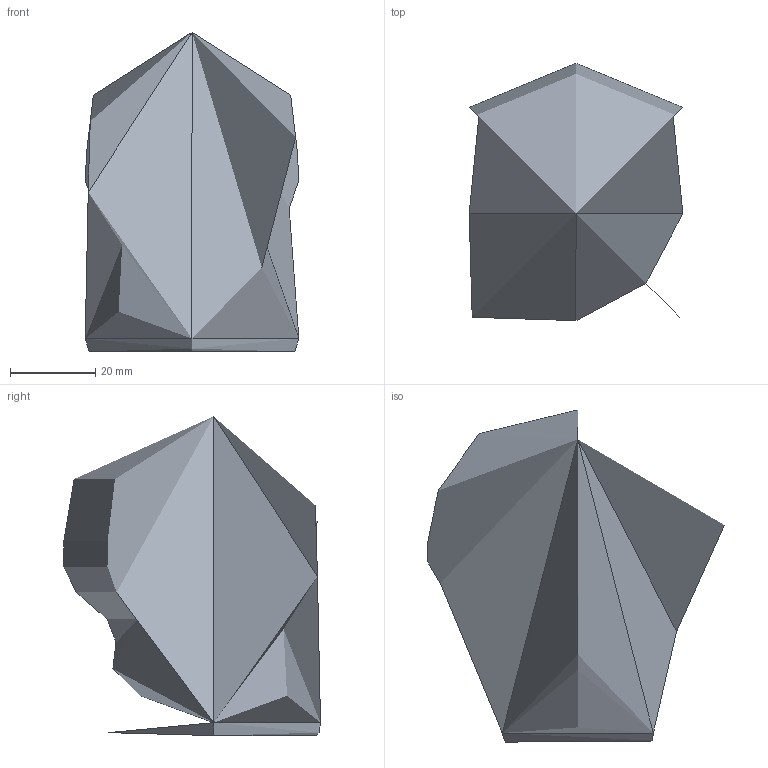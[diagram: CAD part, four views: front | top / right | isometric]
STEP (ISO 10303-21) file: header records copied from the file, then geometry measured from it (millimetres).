
FILE_DESCRIPTION(/* description */ (''),/* implementation_level */ '2;1');
FILE_NAME(/* name */ 'Pebosto peso S',/* time_stamp */ '2025-07-18T11:37:25+02:00',/* author */ (''),/* organization */ (''),/* preprocessor_version */ 'ST-DEVELOPER v16.5',/* originating_system */ 'Rhino 7.37',/* authorisation */ '');
FILE_SCHEMA (('AUTOMOTIVE_DESIGN'));
Length unit declared in the file: millimetre
Products named in the file (1): Document
Bounding box: 50.2 x 60.38 x 75 mm (x, y, z)
Volume: 128287.9 mm3; surface area: 20420.5 mm2
Topology: 1 solids, 1 shells, 8 faces, 20 edges, 8 vertices
Faces by surface type: bspline 8
Entity records: 1472 total; most frequent: CARTESIAN_POINT 1359, ORIENTED_EDGE 28, EDGE_CURVE 14, ADVANCED_FACE 8, FACE_OUTER_BOUND 8, EDGE_LOOP 8, VERTEX_POINT 8, B_SPLINE_CURVE_WITH_KNOTS 5
